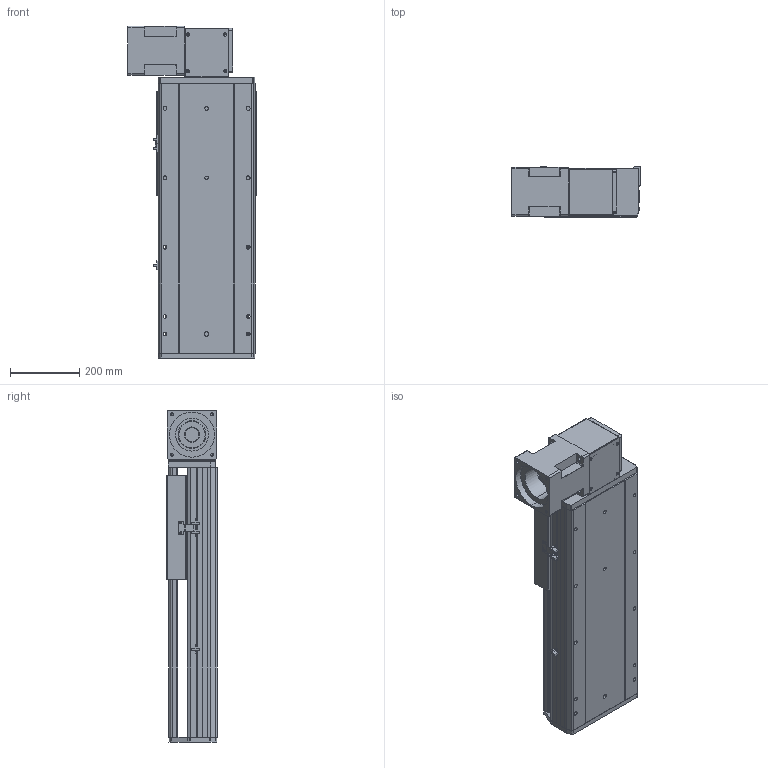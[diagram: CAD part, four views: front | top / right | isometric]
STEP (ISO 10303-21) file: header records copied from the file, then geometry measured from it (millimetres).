
FILE_DESCRIPTION (( 'STEP AP214' ), '1' );
FILE_NAME ('RTB28R-XX-350-BR-M100-XX-C4.STEP', '2025-12-22T01:06:49', ( '' ), ( '' ), 'SwSTEP 2.0', 'SolidWorks 2018', '' );
FILE_SCHEMA (( 'AUTOMOTIVE_DESIGN' ));
Length unit declared in the file: millimetre
Products named in the file (4): RTB28S-GY-004^RTB28R-XX-XX-BR-M100-XX-C4; RTB28S-GY-008^RTB28R-XX-XX-BR-M100-XX-C4; RTB28S-GY-011^RTB28R-XX-XX-BR-M100-XX-C4; RTB28R-XX-350-BR-M100-XX-C4
Assembly tree (3 placements, depth 2):
  RTB28R-XX-350-BR-M100-XX-C4
    RTB28S-GY-011^RTB28R-XX-XX-BR-M100-XX-C4
    RTB28S-GY-004^RTB28R-XX-XX-BR-M100-XX-C4
    RTB28S-GY-008^RTB28R-XX-XX-BR-M100-XX-C4
Bounding box: 370 x 145 x 957 mm (x, y, z)
Volume: 19370863 mm3; surface area: 1939315.1 mm2
Topology: 3 solids, 4 shells, 958 faces, 2520 edges, 1616 vertices
Faces by surface type: plane 450, cylinder 337, bspline 87, cone 80, torus 4
Entity records: 40744 total; most frequent: CARTESIAN_POINT 10795, ORIENTED_EDGE 4976, DIRECTION 4800, EDGE_CURVE 2488, AXIS2_PLACEMENT_3D 1629, VERTEX_POINT 1616, VECTOR 1542, LINE 1542
